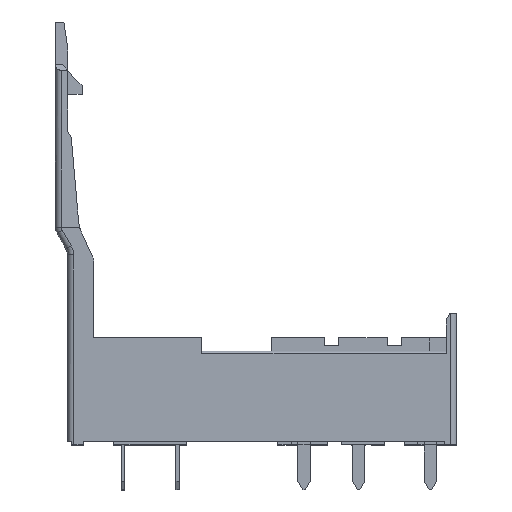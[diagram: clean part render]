
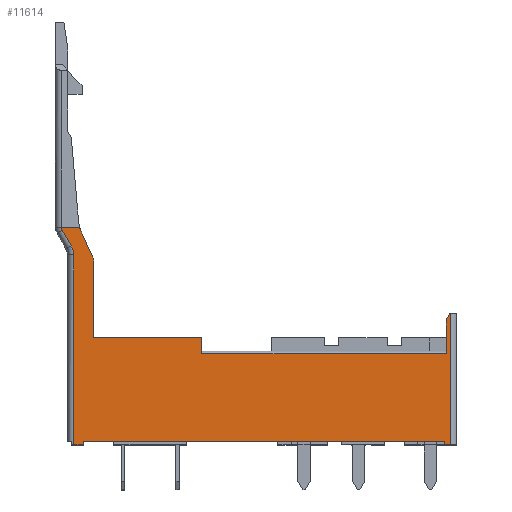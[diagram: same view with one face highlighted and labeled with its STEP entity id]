
A CAD part, top view. The second image highlights one B-rep face of the part: STEP entity #11614.
In plain terms, the highlighted planar face has unit normal (0, 0, 1).
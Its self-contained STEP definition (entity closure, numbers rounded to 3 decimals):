
#92=CIRCLE('',#12120,1.);
#93=CIRCLE('',#12121,3.);
#94=CIRCLE('',#12122,0.5);
#95=CIRCLE('',#12123,1.5);
#619=ORIENTED_EDGE('',*,*,#3048,.T.);
#620=ORIENTED_EDGE('',*,*,#3049,.T.);
#621=ORIENTED_EDGE('',*,*,#3050,.T.);
#622=ORIENTED_EDGE('',*,*,#3041,.F.);
#623=ORIENTED_EDGE('',*,*,#2826,.F.);
#624=ORIENTED_EDGE('',*,*,#3051,.T.);
#625=ORIENTED_EDGE('',*,*,#2890,.F.);
#626=ORIENTED_EDGE('',*,*,#2886,.T.);
#627=ORIENTED_EDGE('',*,*,#3037,.F.);
#628=ORIENTED_EDGE('',*,*,#3052,.T.);
#629=ORIENTED_EDGE('',*,*,#3053,.T.);
#630=ORIENTED_EDGE('',*,*,#3054,.T.);
#631=ORIENTED_EDGE('',*,*,#3055,.T.);
#632=ORIENTED_EDGE('',*,*,#3056,.T.);
#633=ORIENTED_EDGE('',*,*,#3057,.F.);
#634=ORIENTED_EDGE('',*,*,#3058,.T.);
#635=ORIENTED_EDGE('',*,*,#3059,.T.);
#636=ORIENTED_EDGE('',*,*,#3060,.T.);
#637=ORIENTED_EDGE('',*,*,#3061,.T.);
#638=ORIENTED_EDGE('',*,*,#3062,.T.);
#639=ORIENTED_EDGE('',*,*,#3063,.T.);
#640=ORIENTED_EDGE('',*,*,#2970,.F.);
#2826=EDGE_CURVE('',#4115,#4116,#4963,.T.);
#2886=EDGE_CURVE('',#4156,#4155,#5023,.T.);
#2890=EDGE_CURVE('',#4156,#4157,#5025,.T.);
#2970=EDGE_CURVE('',#4236,#4237,#5104,.T.);
#3037=EDGE_CURVE('',#4290,#4155,#5160,.T.);
#3041=EDGE_CURVE('',#4116,#4291,#5162,.T.);
#3048=EDGE_CURVE('',#4236,#4297,#5168,.T.);
#3049=EDGE_CURVE('',#4297,#4298,#5169,.T.);
#3050=EDGE_CURVE('',#4298,#4291,#5170,.T.);
#3051=EDGE_CURVE('',#4115,#4157,#5171,.T.);
#3052=EDGE_CURVE('',#4290,#4299,#5172,.T.);
#3053=EDGE_CURVE('',#4299,#4300,#92,.T.);
#3054=EDGE_CURVE('',#4300,#4301,#5173,.T.);
#3055=EDGE_CURVE('',#4301,#4302,#93,.T.);
#3056=EDGE_CURVE('',#4302,#4303,#5174,.T.);
#3057=EDGE_CURVE('',#4304,#4303,#5175,.T.);
#3058=EDGE_CURVE('',#4304,#4305,#94,.T.);
#3059=EDGE_CURVE('',#4305,#4306,#5176,.T.);
#3060=EDGE_CURVE('',#4306,#4307,#95,.T.);
#3061=EDGE_CURVE('',#4307,#4308,#5177,.T.);
#3062=EDGE_CURVE('',#4308,#4309,#5178,.T.);
#3063=EDGE_CURVE('',#4309,#4237,#5179,.T.);
#4115=VERTEX_POINT('',#15132);
#4116=VERTEX_POINT('',#15133);
#4155=VERTEX_POINT('',#15249);
#4156=VERTEX_POINT('',#15251);
#4157=VERTEX_POINT('',#15257);
#4236=VERTEX_POINT('',#15417);
#4237=VERTEX_POINT('',#15419);
#4290=VERTEX_POINT('',#15553);
#4291=VERTEX_POINT('',#15557);
#4297=VERTEX_POINT('',#15577);
#4298=VERTEX_POINT('',#15579);
#4299=VERTEX_POINT('',#15583);
#4300=VERTEX_POINT('',#15585);
#4301=VERTEX_POINT('',#15587);
#4302=VERTEX_POINT('',#15589);
#4303=VERTEX_POINT('',#15591);
#4304=VERTEX_POINT('',#15593);
#4305=VERTEX_POINT('',#15595);
#4306=VERTEX_POINT('',#15597);
#4307=VERTEX_POINT('',#15599);
#4308=VERTEX_POINT('',#15601);
#4309=VERTEX_POINT('',#15603);
#4963=LINE('',#15131,#6182);
#5023=LINE('',#15250,#6242);
#5025=LINE('',#15258,#6244);
#5104=LINE('',#15418,#6323);
#5160=LINE('',#15554,#6379);
#5162=LINE('',#15562,#6381);
#5168=LINE('',#15576,#6387);
#5169=LINE('',#15578,#6388);
#5170=LINE('',#15580,#6389);
#5171=LINE('',#15581,#6390);
#5172=LINE('',#15582,#6391);
#5173=LINE('',#15586,#6392);
#5174=LINE('',#15590,#6393);
#5175=LINE('',#15592,#6394);
#5176=LINE('',#15596,#6395);
#5177=LINE('',#15600,#6396);
#5178=LINE('',#15602,#6397);
#5179=LINE('',#15604,#6398);
#6182=VECTOR('',#12746,1000.);
#6242=VECTOR('',#12842,1000.);
#6244=VECTOR('',#12852,1000.);
#6323=VECTOR('',#12935,1000.);
#6379=VECTOR('',#13035,1000.);
#6381=VECTOR('',#13043,1000.);
#6387=VECTOR('',#13059,1000.);
#6388=VECTOR('',#13060,1000.);
#6389=VECTOR('',#13061,1000.);
#6390=VECTOR('',#13062,1000.);
#6391=VECTOR('',#13063,1000.);
#6392=VECTOR('',#13066,1000.);
#6393=VECTOR('',#13069,1000.);
#6394=VECTOR('',#13070,1000.);
#6395=VECTOR('',#13073,1000.);
#6396=VECTOR('',#13076,1000.);
#6397=VECTOR('',#13077,1000.);
#6398=VECTOR('',#13078,1000.);
#7380=EDGE_LOOP('',(#619,#620,#621,#622,#623,#624,#625,#626,#627,#628,#629,
#630,#631,#632,#633,#634,#635,#636,#637,#638,#639,#640));
#7869=FACE_BOUND('',#7380,.T.);
#8339=PLANE('',#12119);
#11614=ADVANCED_FACE('',(#7869),#8339,.T.);
#12119=AXIS2_PLACEMENT_3D('',#15575,#13057,#13058);
#12120=AXIS2_PLACEMENT_3D('',#15584,#13064,#13065);
#12121=AXIS2_PLACEMENT_3D('',#15588,#13067,#13068);
#12122=AXIS2_PLACEMENT_3D('',#15594,#13071,#13072);
#12123=AXIS2_PLACEMENT_3D('',#15598,#13074,#13075);
#12746=DIRECTION('',(0.5,0.866,0.));
#12842=DIRECTION('',(0.,1.,0.));
#12852=DIRECTION('',(1.,0.,0.));
#12935=DIRECTION('',(-1.,0.,0.));
#13035=DIRECTION('',(1.,0.,0.));
#13043=DIRECTION('',(1.,0.,0.));
#13057=DIRECTION('',(0.,0.,1.));
#13058=DIRECTION('',(1.,0.,0.));
#13059=DIRECTION('',(0.,-1.,0.));
#13060=DIRECTION('',(1.,0.,0.));
#13061=DIRECTION('',(0.,1.,0.));
#13062=DIRECTION('',(0.,-1.,0.));
#13063=DIRECTION('',(0.,1.,0.));
#13064=DIRECTION('',(0.,0.,1.));
#13065=DIRECTION('',(1.,0.,0.));
#13066=DIRECTION('',(-0.423,0.906,0.));
#13067=DIRECTION('',(0.,0.,-1.));
#13068=DIRECTION('',(-1.,0.,0.));
#13069=DIRECTION('',(-1.,0.,0.));
#13070=DIRECTION('',(0.,1.,0.));
#13071=DIRECTION('',(0.,0.,1.));
#13072=DIRECTION('',(1.,0.,0.));
#13073=DIRECTION('',(0.5,-0.866,0.));
#13074=DIRECTION('',(0.,0.,-1.));
#13075=DIRECTION('',(-1.,0.,0.));
#13076=DIRECTION('',(0.,-1.,0.));
#13077=DIRECTION('',(1.,0.,0.));
#13078=DIRECTION('',(0.,1.,0.));
#15131=CARTESIAN_POINT('',(219.433,142.85,12.4));
#15132=CARTESIAN_POINT('',(219.283,142.59,12.4));
#15133=CARTESIAN_POINT('',(219.583,143.11,12.4));
#15249=CARTESIAN_POINT('',(199.183,141.11,12.4));
#15250=CARTESIAN_POINT('',(199.183,140.46,12.4));
#15251=CARTESIAN_POINT('',(199.183,139.81,12.4));
#15257=CARTESIAN_POINT('',(219.283,139.81,12.4));
#15258=CARTESIAN_POINT('',(209.233,139.81,12.4));
#15417=CARTESIAN_POINT('',(219.133,132.61,12.4));
#15418=CARTESIAN_POINT('',(204.283,132.61,12.4));
#15419=CARTESIAN_POINT('',(189.433,132.61,12.4));
#15553=CARTESIAN_POINT('',(190.283,141.11,12.4));
#15554=CARTESIAN_POINT('',(194.733,141.11,12.4));
#15557=CARTESIAN_POINT('',(219.633,143.11,12.4));
#15562=CARTESIAN_POINT('',(219.608,143.11,12.4));
#15575=CARTESIAN_POINT('',(186.033,131.415,12.4));
#15576=CARTESIAN_POINT('',(219.133,132.46,12.4));
#15577=CARTESIAN_POINT('',(219.133,132.31,12.4));
#15578=CARTESIAN_POINT('',(219.383,132.31,12.4));
#15579=CARTESIAN_POINT('',(219.633,132.31,12.4));
#15580=CARTESIAN_POINT('',(219.633,137.71,12.4));
#15581=CARTESIAN_POINT('',(219.283,141.2,12.4));
#15582=CARTESIAN_POINT('',(190.283,144.251,12.4));
#15583=CARTESIAN_POINT('',(190.283,147.393,12.4));
#15584=CARTESIAN_POINT('',(189.283,147.393,12.4));
#15585=CARTESIAN_POINT('',(190.189,147.816,12.4));
#15586=CARTESIAN_POINT('',(189.746,148.766,12.4));
#15587=CARTESIAN_POINT('',(189.303,149.715,12.4));
#15588=CARTESIAN_POINT('',(192.022,150.983,12.4));
#15589=CARTESIAN_POINT('',(189.123,150.21,12.4));
#15590=CARTESIAN_POINT('',(188.378,150.21,12.4));
#15591=CARTESIAN_POINT('',(187.633,150.21,12.4));
#15592=CARTESIAN_POINT('',(187.633,150.206,12.4));
#15593=CARTESIAN_POINT('',(187.633,150.203,12.4));
#15594=CARTESIAN_POINT('',(188.133,150.203,12.4));
#15595=CARTESIAN_POINT('',(187.7,149.953,12.4));
#15596=CARTESIAN_POINT('',(188.066,149.319,12.4));
#15597=CARTESIAN_POINT('',(188.432,148.685,12.4));
#15598=CARTESIAN_POINT('',(187.133,147.935,12.4));
#15599=CARTESIAN_POINT('',(188.633,147.935,12.4));
#15600=CARTESIAN_POINT('',(188.633,140.122,12.4));
#15601=CARTESIAN_POINT('',(188.633,132.31,12.4));
#15602=CARTESIAN_POINT('',(189.033,132.31,12.4));
#15603=CARTESIAN_POINT('',(189.433,132.31,12.4));
#15604=CARTESIAN_POINT('',(189.433,132.46,12.4));
